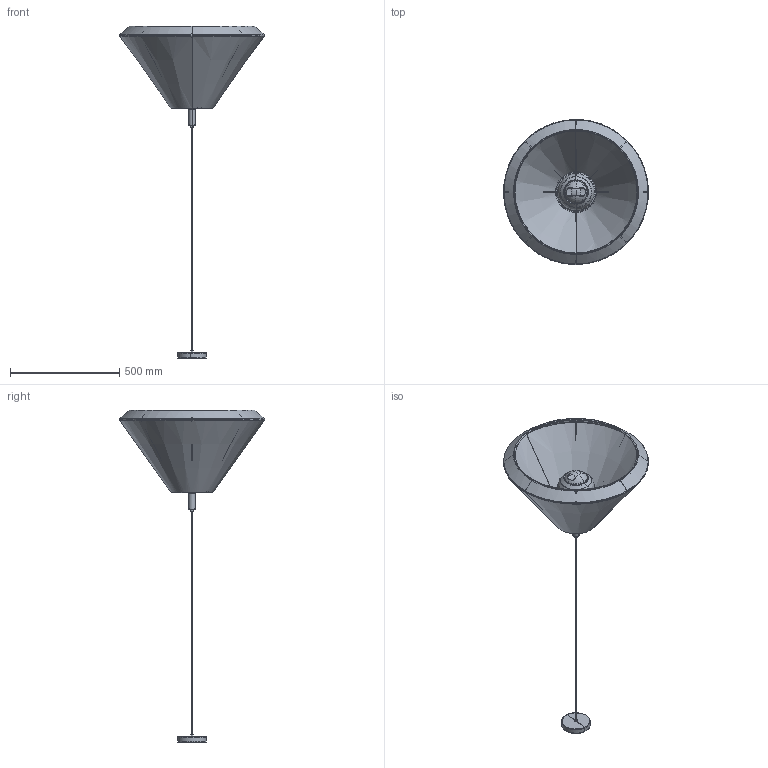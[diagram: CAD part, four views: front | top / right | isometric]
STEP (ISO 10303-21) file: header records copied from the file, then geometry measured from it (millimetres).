
FILE_DESCRIPTION(/* description */ (''),/* implementation_level */ '2;1');
FILE_NAME(/* name */ 'C:\Users\FrancoSartori\Documents\FARO\01_En Proceso\00_SAIGON\03_Publicación\71579H-06.stp',/* time_stamp */ '2021-05-03T10:27:30+02:00',/* author */ ('FrancoSartori'),/* organization */ (''),/* preprocessor_version */ 'ST-DEVELOPER v18.1',/* originating_system */ 'AutoCAD Mechanical',/* authorisation */ '');
FILE_SCHEMA (('AUTOMOTIVE_DESIGN { 1 0 10303 214 3 1 1 }'));
Length unit declared in the file: millimetre
Products named in the file (5): Product; 71620 - Canopy-465881-Export; 71579_lamp - LampH-465882-Export; T70 - 71589 T70 cream-483831-Export; 71583HC - HoleCap-483827-Export
Assembly tree (4 placements, depth 2):
  Product
    71620 - Canopy-465881-Export
    71579_lamp - LampH-465882-Export
    T70 - 71589 T70 cream-483831-Export
    71583HC - HoleCap-483827-Export
Bounding box: 662.84 x 663.48 x 1518.35 mm (x, y, z)
Volume: 2332811.8 mm3; surface area: 3308508.5 mm2
Topology: 19 solids, 20 shells, 526 faces, 1202 edges, 696 vertices
Faces by surface type: cylinder 198, torus 136, plane 90, cone 90, bspline 10, sphere 2
Entity records: 26632 total; most frequent: CARTESIAN_POINT 15727, ORIENTED_EDGE 2400, DIRECTION 1969, EDGE_CURVE 1202, AXIS2_PLACEMENT_3D 805, VERTEX_POINT 696, B_SPLINE_CURVE_WITH_KNOTS 563, EDGE_LOOP 532
